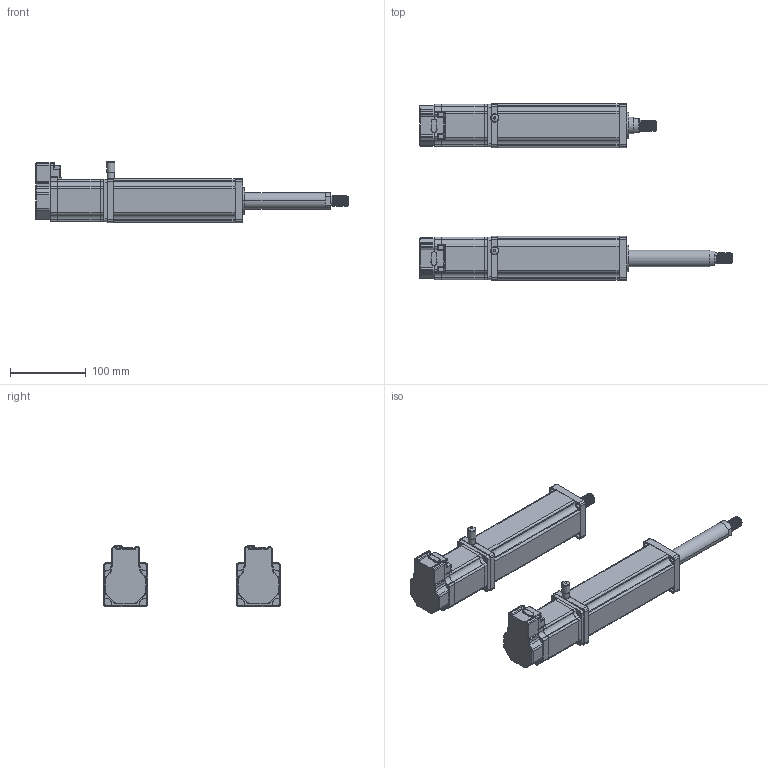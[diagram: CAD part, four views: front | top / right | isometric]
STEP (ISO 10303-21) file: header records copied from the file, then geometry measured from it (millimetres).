
FILE_DESCRIPTION(('FreeCAD Model'),'2;1');
FILE_NAME('Open CASCADE Shape Model','2023-08-04T13:21:45',('Author'),( ''),'Open CASCADE STEP processor 7.5','FreeCAD','Unknown');
FILE_SCHEMA(('AUTOMOTIVE_DESIGN { 1 0 10303 214 1 1 1 1 }'));
Length unit declared in the file: millimetre
Products named in the file (47): Unnamed; Shapes; Shapes001; Shapes002; Shapes003; Shapes004; Shapes005; Shapes006; Shapes007; Shapes008; Shapes009; Shapes010; Shapes011; Shapes012; Shapes013; Shapes014; Shapes015; Shapes016; Shapes017; Shapes018; Shapes019; Shapes020; Shapes021; Shapes022; Shapes023; Shapes024; Shapes025; Shapes026; Shapes027; Shapes028; Shapes029; Shapes030; Shapes031; Shapes032; Shapes033; Shapes034; Shapes035; Shapes036; Shapes037; Shapes038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
Assembly tree (46 placements, depth 2):
  Unnamed
    Shapes
    Shapes001
    Shapes002
    Shapes003
    Shapes004
    Shapes005
    Shapes006
    Shapes007
    Shapes008
    Shapes009
    Shapes010
    Shapes011
    Shapes012
    Shapes013
    Shapes014
    Shapes015
    Shapes016
    Shapes017
    Shapes018
    Shapes019
    Shapes020
    Shapes021
    Shapes022
    Shapes023
    Shapes024
    Shapes025
    Shapes026
    Shapes027
    Shapes028
    Shapes029
    Shapes030
    Shapes031
    Shapes032
    Shapes033
    Shapes034
    Shapes035
    Shapes036
    Shapes037
    Shapes038
    Shapes039
    Shapes040
    Shapes041
    Shapes042
    Shapes043
    AN10-01
    AN10-002
Bounding box: 412.5 x 233.23 x 81.34 mm (x, y, z)
Volume: 1701183 mm3; surface area: 252711.2 mm2
Topology: 46 solids, 46 shells, 1358 faces, 3600 edges, 2342 vertices
Faces by surface type: plane 770, cylinder 476, bspline 60, torus 38, sphere 10, cone 4
Full cylindrical faces by diameter (mm): 6 x2, 9.728 x2, 11 x2
Entity records: 146451 total; most frequent: CARTESIAN_POINT 73957, DIRECTION 13358, LINE 8408, VECTOR 8408, ORIENTED_EDGE 7168, PCURVE 7168, DEFINITIONAL_REPRESENTATION 7168, EDGE_CURVE 3584
